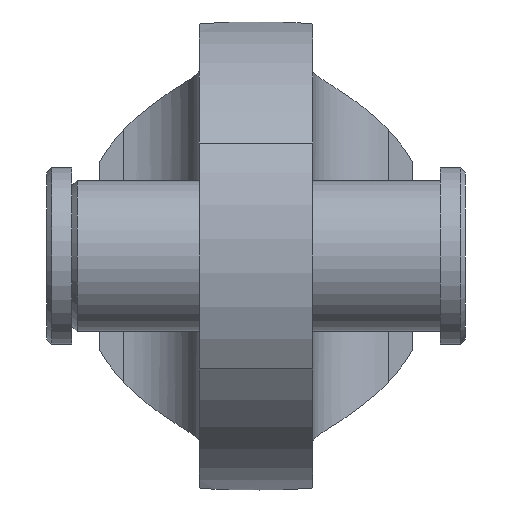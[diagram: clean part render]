
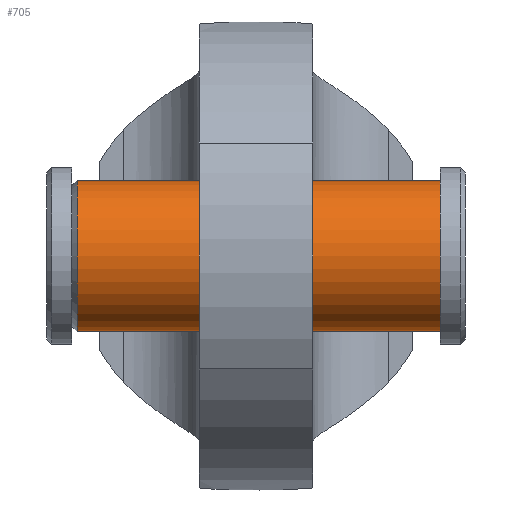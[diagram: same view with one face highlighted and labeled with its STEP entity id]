
A CAD part, front view. The second image highlights one B-rep face of the part: STEP entity #705.
In plain terms, the highlighted cylindrical face has radius 30 mm (diameter 60 mm), a full revolution.
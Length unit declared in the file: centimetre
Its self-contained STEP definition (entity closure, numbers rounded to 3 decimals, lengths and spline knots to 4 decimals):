
#89=CYLINDRICAL_SURFACE('',#790,3.);
#134=FACE_BOUND('',#246,.T.);
#176=FACE_OUTER_BOUND('',#245,.T.);
#245=EDGE_LOOP('',(#556));
#246=EDGE_LOOP('',(#557));
#298=CIRCLE('',#784,3.);
#301=CIRCLE('',#791,3.);
#349=VERTEX_POINT('',#1273);
#352=VERTEX_POINT('',#1283);
#422=EDGE_CURVE('',#349,#349,#298,.T.);
#425=EDGE_CURVE('',#352,#352,#301,.T.);
#556=ORIENTED_EDGE('',*,*,#422,.F.);
#557=ORIENTED_EDGE('',*,*,#425,.F.);
#705=ADVANCED_FACE('',(#176,#134),#89,.T.);
#784=AXIS2_PLACEMENT_3D('',#1274,#940,#941);
#790=AXIS2_PLACEMENT_3D('',#1282,#952,#953);
#791=AXIS2_PLACEMENT_3D('',#1284,#954,#955);
#940=DIRECTION('center_axis',(1.,0.,0.));
#941=DIRECTION('ref_axis',(0.,1.,0.));
#952=DIRECTION('center_axis',(1.,0.,0.));
#953=DIRECTION('ref_axis',(0.,1.,0.));
#954=DIRECTION('center_axis',(-1.,0.,0.));
#955=DIRECTION('ref_axis',(0.,1.,0.));
#1273=CARTESIAN_POINT('',(7.3,-3.,0.));
#1274=CARTESIAN_POINT('Origin',(7.3,0.,0.));
#1282=CARTESIAN_POINT('Origin',(0.,0.,
0.));
#1283=CARTESIAN_POINT('',(-7.1,-3.,0.));
#1284=CARTESIAN_POINT('Origin',(-7.1,0.,0.));
